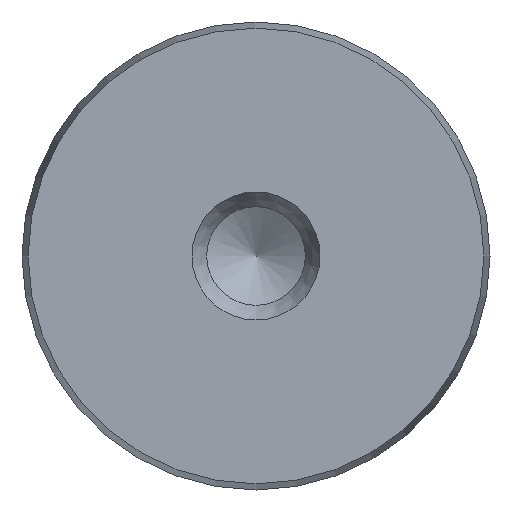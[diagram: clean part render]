
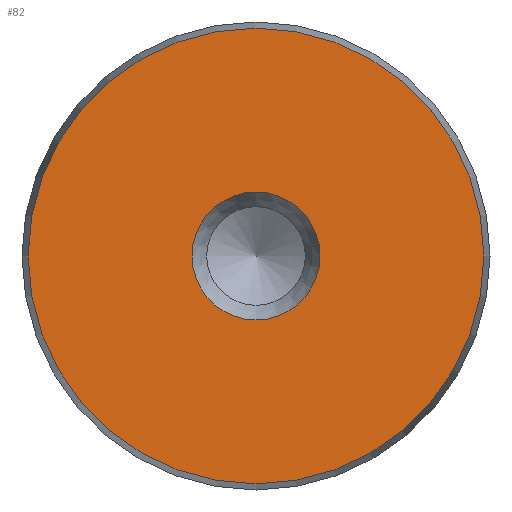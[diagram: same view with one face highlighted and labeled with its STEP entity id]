
A CAD part, front view. The second image highlights one B-rep face of the part: STEP entity #82.
In plain terms, the highlighted planar face has unit normal (0, -1, 0).
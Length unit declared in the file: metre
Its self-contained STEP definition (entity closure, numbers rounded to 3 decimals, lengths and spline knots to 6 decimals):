
#82 = ADVANCED_FACE( '', ( #108, #109 ), #110, .T. );
#108 = FACE_BOUND( '', #150, .T. );
#109 = FACE_OUTER_BOUND( '', #151, .T. );
#110 = PLANE( '', #152 );
#150 = EDGE_LOOP( '', ( #202 ) );
#151 = EDGE_LOOP( '', ( #203 ) );
#152 = AXIS2_PLACEMENT_3D( '', #204, #205, #206 );
#202 = ORIENTED_EDGE( '', *, *, #252, .T. );
#203 = ORIENTED_EDGE( '', *, *, #254, .T. );
#204 = CARTESIAN_POINT( '', ( 0., -0.0625, 0. ) );
#205 = DIRECTION( '', ( 0., -1., 0. ) );
#206 = DIRECTION( '', ( 0., 0., -1. ) );
#252 = EDGE_CURVE( '', #270, #270, #271, .F. );
#254 = EDGE_CURVE( '', #274, #274, #275, .T. );
#270 = VERTEX_POINT( '', #296 );
#271 = CIRCLE( '', #297, 0.004375 );
#274 = VERTEX_POINT( '', #300 );
#275 = CIRCLE( '', #301, 0.015578 );
#296 = CARTESIAN_POINT( '', ( 0., -0.0625, -0.004375 ) );
#297 = AXIS2_PLACEMENT_3D( '', #326, #327, #328 );
#300 = CARTESIAN_POINT( '', ( 0., -0.0625, -0.015578 ) );
#301 = AXIS2_PLACEMENT_3D( '', #332, #333, #334 );
#326 = CARTESIAN_POINT( '', ( 0., -0.0625, 0. ) );
#327 = DIRECTION( '', ( 0., -1., 0. ) );
#328 = DIRECTION( '', ( 0., 0., -1. ) );
#332 = CARTESIAN_POINT( '', ( 0., -0.0625, 0. ) );
#333 = DIRECTION( '', ( 0., -1., 0. ) );
#334 = DIRECTION( '', ( 0., 0., -1. ) );
